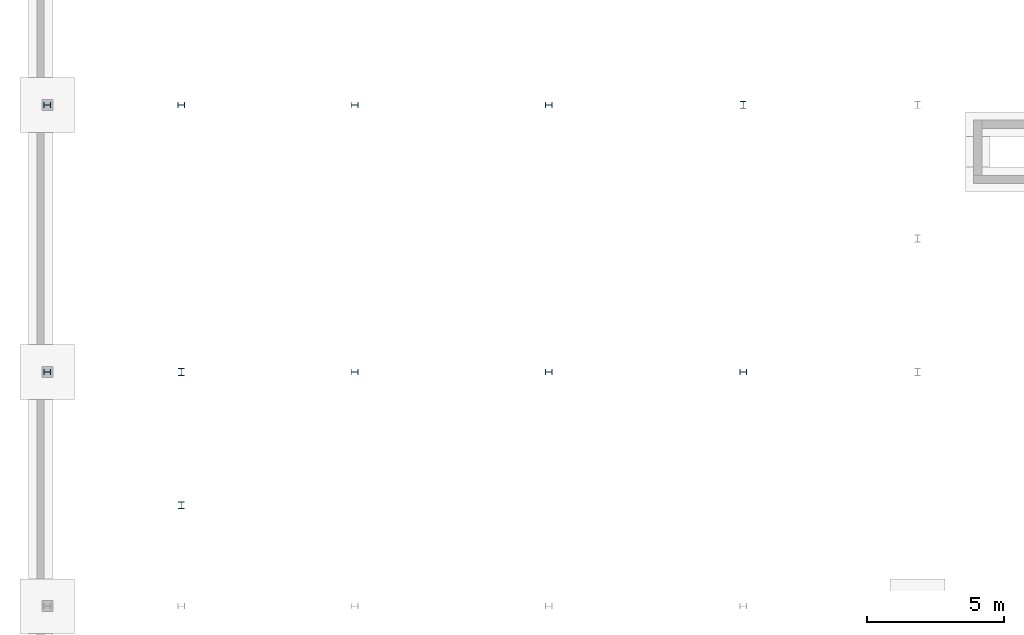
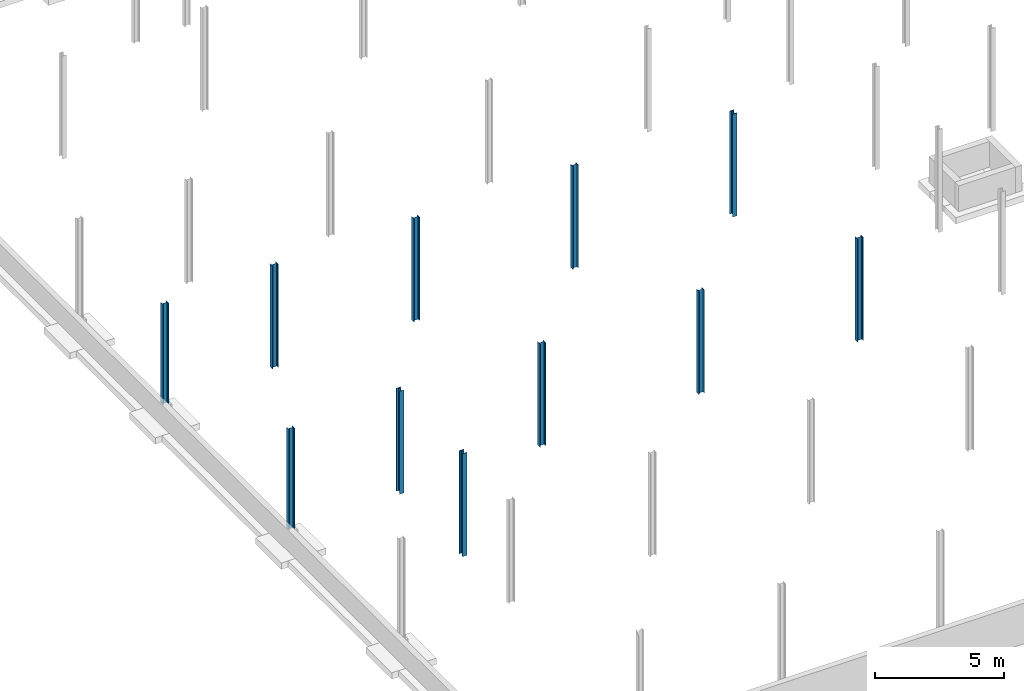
# One storey, part 4 of 11: 11 columns.
"""IFC2X3 building model written with IfcOpenShell, lengths in metres."""

from ifc_helpers import new_model, entity, si_unit, converted_unit, frame, frame_2d, origin, place, context, project, spatial, polyline, circle_curve, parameter, trimmed, segment, composite_curve, outline, extrude, source, transform, mapped, material, type_object, type_shapes, element, save


model = new_model("IFC2X3")

# Units and contexts
model_context = context("Model", 3, precision=1e-09, world=origin())
plan_context = context("Plan", 3, precision=1e-09, world=origin())
ifc_project = project(units=[si_unit("LENGTHUNIT", "METRE"), si_unit("AREAUNIT", "SQUARE_METRE"), si_unit("VOLUMEUNIT", "CUBIC_METRE"), converted_unit("PLANEANGLEUNIT", "DEGREE", entity("IfcRatioMeasure", 0.01745329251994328), si_unit("PLANEANGLEUNIT", "RADIAN"), dimensions=[0, 0, 0, 0, 0, 0, 0]), si_unit("TIMEUNIT", "SECOND")], contexts=[model_context, plan_context])

# Site, building, storey
site_placement = place(None, origin())
site = spatial("IfcSite", under=ifc_project, at=site_placement, Name="Default", CompositionType="ELEMENT")
building_placement = place(site_placement, origin())
building = spatial("IfcBuilding", under=site, at=building_placement, CompositionType="ELEMENT")
storey_placement = place(building_placement, frame((0.0, 0.0, -1.0)))
storey = spatial("IfcBuildingStorey", under=building, at=storey_placement, Name="TOF Footing", CompositionType="ELEMENT", Elevation=-1.000000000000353)

# Columns
ifc_material = material(Name="Metal - Steel - 345 MPa")
column_type_1 = type_object("IfcColumnType", Name="W250X67", PredefinedType="COLUMN")
shared_shape_1 = source(origin(), model_context, "Body", "SweptSolid", [
    extrude(outline(composite_curve([segment(polyline([(-0.102, -0.1285), (0.102, -0.1285)]), True, "CONTINUOUS"), segment(polyline([(0.102, -0.1285), (0.102, -0.1128)]), True, "CONTINUOUS"), segment(polyline([(0.102, -0.1128), (0.02174999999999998, -0.1128)]), True, "CONTINUOUS"), segment(trimmed(circle_curve(frame_2d((0.02174999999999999, -0.09549999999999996), x_axis=(-1.0, 0.0)), 0.0173), [parameter(4.071109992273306e-13)], [parameter(90.00000000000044)], True, "PARAMETER"), False, "CONTINUOUS"), segment(polyline([(0.004449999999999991, -0.09549999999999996), (0.004449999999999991, 0.09549999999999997)]), True, "CONTINUOUS"), segment(trimmed(circle_curve(frame_2d((0.02174999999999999, 0.09549999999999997), x_axis=(-1.0, 0.0)), 0.0173), [parameter(270.0000000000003)], [parameter(3.562221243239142e-13)], True, "PARAMETER"), False, "CONTINUOUS"), segment(polyline([(0.02174999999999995, 0.1128), (0.102, 0.1128)]), True, "CONTINUOUS"), segment(polyline([(0.102, 0.1128), (0.102, 0.1285)]), True, "CONTINUOUS"), segment(polyline([(0.102, 0.1285), (-0.102, 0.1285)]), True, "CONTINUOUS"), segment(polyline([(-0.102, 0.1285), (-0.102, 0.1128)]), True, "CONTINUOUS"), segment(polyline([(-0.102, 0.1128), (-0.02174999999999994, 0.1128)]), True, "CONTINUOUS"), segment(trimmed(circle_curve(frame_2d((-0.02175000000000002, 0.09549999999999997), x_axis=(-1.0, 0.0)), 0.0173), [parameter(179.9999999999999)], [parameter(269.9999999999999)], True, "PARAMETER"), False, "CONTINUOUS"), segment(polyline([(-0.004450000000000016, 0.09550000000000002), (-0.004450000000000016, -0.09549999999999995)]), True, "CONTINUOUS"), segment(trimmed(circle_curve(frame_2d((-0.02175000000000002, -0.09549999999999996), x_axis=(-1.0, 0.0)), 0.0173), [parameter(90.00000000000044)], [parameter(180.0000000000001)], True, "PARAMETER"), False, "CONTINUOUS"), segment(polyline([(-0.02175000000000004, -0.1128), (-0.102, -0.1128)]), True, "CONTINUOUS"), segment(polyline([(-0.102, -0.1128), (-0.102, -0.1285)]), True, "CONTINUOUS")], self_intersect=False)), frame((0.0, 0.0, -0.305000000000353), z_axis=(0.0, 0.0, 1.0), x_axis=(-1.0, 0.0, 0.0)), (0.0, 0.0, 1.0), 4.87500000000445),
])
type_shapes(column_type_1, [shared_shape_1])
column_1_placement = place(storey_placement, frame((-47.0, 18.61000000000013, 1.0)))
element("IfcColumn", 1, at=column_1_placement, inside=storey, type_object=column_type_1, material=ifc_material, Name="M_W-Wide Flange-Column:W250X67:W250X67", ObjectType="W250X67", context=model_context, shape_type="MappedRepresentation", body=[
    mapped(shared_shape_1, transform((0.0, 0.0, 0.0), scale=1.0)),
])
for number, where, z_axis, x_axis in (
    (2, (-33.55000000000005, 18.61000000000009, 1.0), (0.0, 0.0, 1.0), (0.0, 1.0, 0.0)),
    (3, (-26.44000000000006, 18.61000000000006, 1.0), (0.0, 0.0, 1.0), (0.0, 1.0, 0.0)),
    (4, (-40.66000000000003, 28.3800000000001, 1.0), (0.0, 0.0, 1.0), (0.0, -1.0, 0.0)),
    (5, (-40.66000000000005, 18.61000000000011, 1.0), (0.0, 0.0, 1.0), (0.0, 1.0, 0.0)),
    (6, (-47.0, 13.73439520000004, 1.0), (0.0, 0.0, 1.0), (-1.0, 0.0, 0.0)),
    (7, (-47.0, 28.38000000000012, 1.0), (0.0, 0.0, 1.0), (0.0, -1.0, 0.0)),
    (8, (-33.55000000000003, 28.38000000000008, 1.0), (0.0, 0.0, 1.0), (0.0, -1.0, 0.0)),
):
    element("IfcColumn", number, at=place(storey_placement, frame(where, z_axis=z_axis, x_axis=x_axis)), inside=storey, type_object=column_type_1, material=ifc_material, Name="M_W-Wide Flange-Column:W250X67:W250X67", ObjectType="W250X67", context=model_context, shape_type="MappedRepresentation", body=[
        mapped(shared_shape_1, transform((0.0, 0.0, 0.0), scale=1.0)),
    ])
column_2_placement = place(storey_placement, frame((-26.44000000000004, 28.38000000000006, 1.0)))
element("IfcColumn", 9, at=column_2_placement, inside=storey, type_object=column_type_1, material=ifc_material, Name="M_W-Wide Flange-Column:W250X67:W250X67", ObjectType="W250X67", context=model_context, shape_type="MappedRepresentation", body=[
    mapped(shared_shape_1, transform((0.0, 0.0, 0.0), scale=1.0)),
])
column_type_2 = type_object("IfcColumnType", Name="W250X67", PredefinedType="COLUMN")
shared_shape_2 = source(origin(), model_context, "Body", "SweptSolid", [
    extrude(outline(composite_curve([segment(polyline([(-0.102, -0.1285), (0.102, -0.1285)]), True, "CONTINUOUS"), segment(polyline([(0.102, -0.1285), (0.102, -0.1128)]), True, "CONTINUOUS"), segment(polyline([(0.102, -0.1128), (0.02174999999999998, -0.1128)]), True, "CONTINUOUS"), segment(trimmed(circle_curve(frame_2d((0.02174999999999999, -0.09549999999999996), x_axis=(-1.0, 0.0)), 0.0173), [parameter(4.071109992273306e-13)], [parameter(90.00000000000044)], True, "PARAMETER"), False, "CONTINUOUS"), segment(polyline([(0.004449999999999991, -0.09549999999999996), (0.004449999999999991, 0.09549999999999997)]), True, "CONTINUOUS"), segment(trimmed(circle_curve(frame_2d((0.02174999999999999, 0.09549999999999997), x_axis=(-1.0, 0.0)), 0.0173), [parameter(270.0000000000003)], [parameter(3.562221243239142e-13)], True, "PARAMETER"), False, "CONTINUOUS"), segment(polyline([(0.02174999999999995, 0.1128), (0.102, 0.1128)]), True, "CONTINUOUS"), segment(polyline([(0.102, 0.1128), (0.102, 0.1285)]), True, "CONTINUOUS"), segment(polyline([(0.102, 0.1285), (-0.102, 0.1285)]), True, "CONTINUOUS"), segment(polyline([(-0.102, 0.1285), (-0.102, 0.1128)]), True, "CONTINUOUS"), segment(polyline([(-0.102, 0.1128), (-0.02174999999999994, 0.1128)]), True, "CONTINUOUS"), segment(trimmed(circle_curve(frame_2d((-0.02175000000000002, 0.09549999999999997), x_axis=(-1.0, 0.0)), 0.0173), [parameter(179.9999999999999)], [parameter(269.9999999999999)], True, "PARAMETER"), False, "CONTINUOUS"), segment(polyline([(-0.004450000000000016, 0.09550000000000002), (-0.004450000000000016, -0.09549999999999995)]), True, "CONTINUOUS"), segment(trimmed(circle_curve(frame_2d((-0.02175000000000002, -0.09549999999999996), x_axis=(-1.0, 0.0)), 0.0173), [parameter(90.00000000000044)], [parameter(180.0000000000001)], True, "PARAMETER"), False, "CONTINUOUS"), segment(polyline([(-0.02175000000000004, -0.1128), (-0.102, -0.1128)]), True, "CONTINUOUS"), segment(polyline([(-0.102, -0.1128), (-0.102, -0.1285)]), True, "CONTINUOUS")], self_intersect=False)), frame((0.0, 0.0, -0.305000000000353), z_axis=(0.0, 0.0, 1.0), x_axis=(-1.0, 0.0, 0.0)), (0.0, 0.0, 1.0), 4.755000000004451),
])
type_shapes(column_type_2, [shared_shape_2])
for number, where, z_axis, x_axis in (
    (10, (-51.90000000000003, 18.61000000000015, 1.0), (0.0, 0.0, 1.0), (0.0, 1.0, 0.0)),
    (11, (-51.90000000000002, 28.38000000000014, 1.0), (0.0, 0.0, 1.0), (0.0, -1.0, 0.0)),
):
    element("IfcColumn", number, at=place(storey_placement, frame(where, z_axis=z_axis, x_axis=x_axis)), inside=storey, type_object=column_type_2, material=ifc_material, Name="M_W-Wide Flange-Column:W250X67:W250X67", ObjectType="W250X67", context=model_context, shape_type="MappedRepresentation", body=[
        mapped(shared_shape_2, transform((0.0, 0.0, 0.0), scale=1.0)),
    ])

save(model, "model.ifc")
